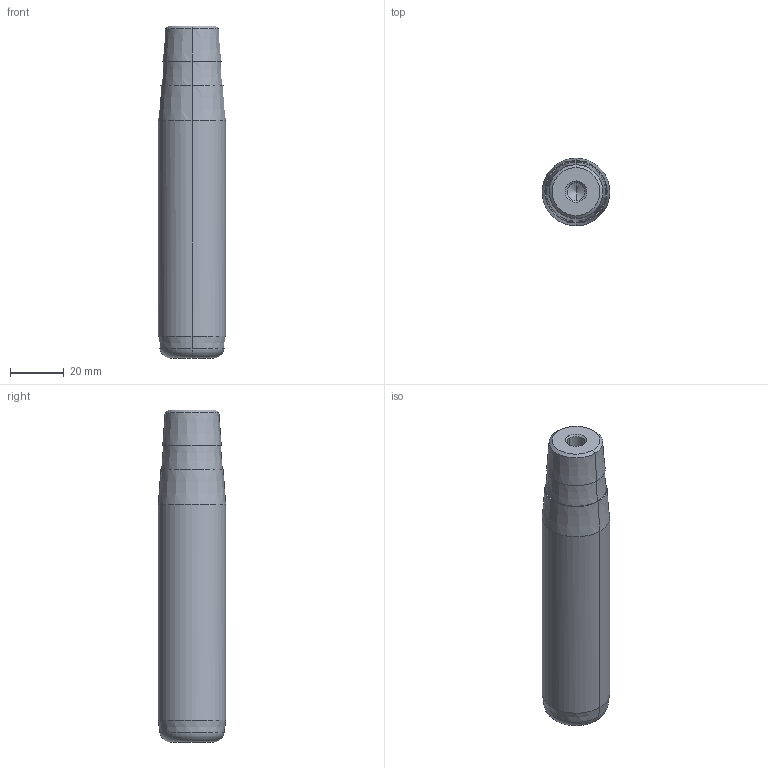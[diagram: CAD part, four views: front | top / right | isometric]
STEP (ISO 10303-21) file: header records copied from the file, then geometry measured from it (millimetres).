
FILE_DESCRIPTION(('CATIA V5 STEP Exchange'),'2;1');
FILE_NAME('C:\Users\Utente\Desktop\IO LAVORO\3D X SITO CF\X SITO\722\722-25x100x123.stp','2021-01-09T08:26:23+00:00',('none'),('none'),'CATIA Version 5 Release 20 GA (IN-10)','CATIA V5 STEP AP203','none');
FILE_SCHEMA(('CONFIG_CONTROL_DESIGN'));
Length unit declared in the file: millimetre
Products named in the file (1): 722-25x100x123
Bounding box: 25 x 25 x 123 mm (x, y, z)
Volume: 54437.2 mm3; surface area: 11046.9 mm2
Topology: 1 solids, 1 shells, 32 faces, 98 edges, 66 vertices
Faces by surface type: cone 22, cylinder 6, plane 2, torus 2
Entity records: 1166 total; most frequent: CARTESIAN_POINT 279, ORIENTED_EDGE 188, DIRECTION 148, EDGE_CURVE 94, AXIS2_PLACEMENT_3D 89, VERTEX_POINT 66, CIRCLE 56, EDGE_LOOP 34
